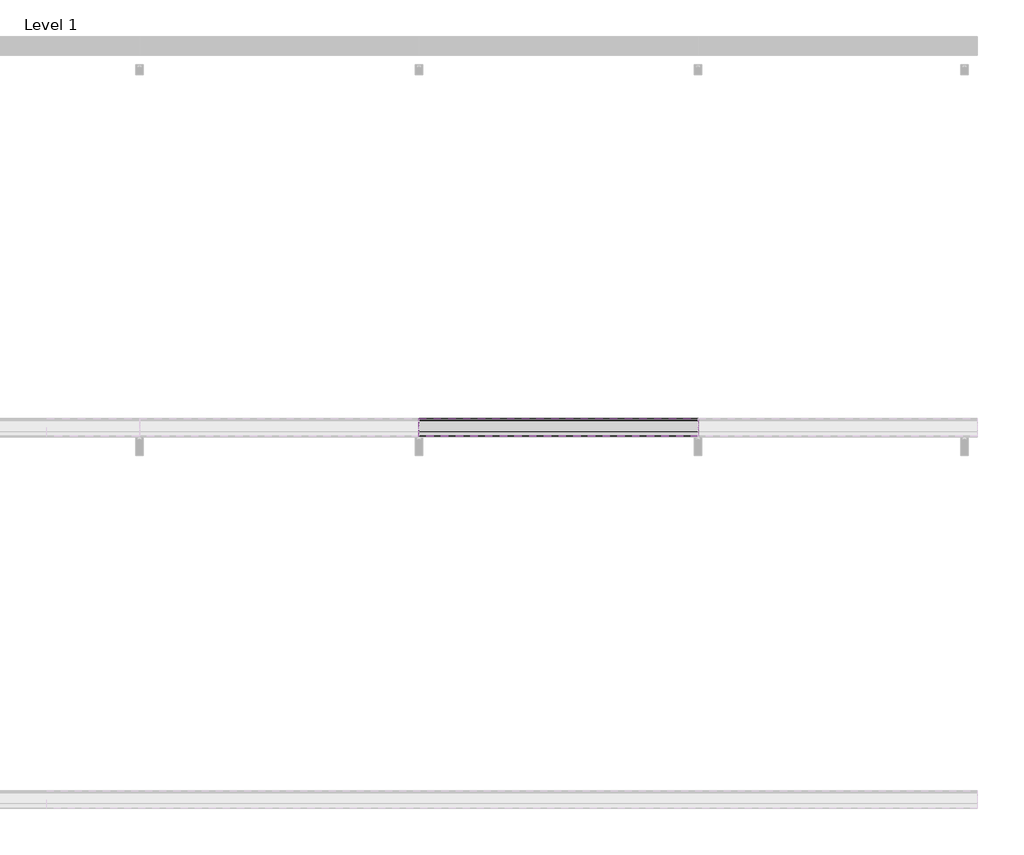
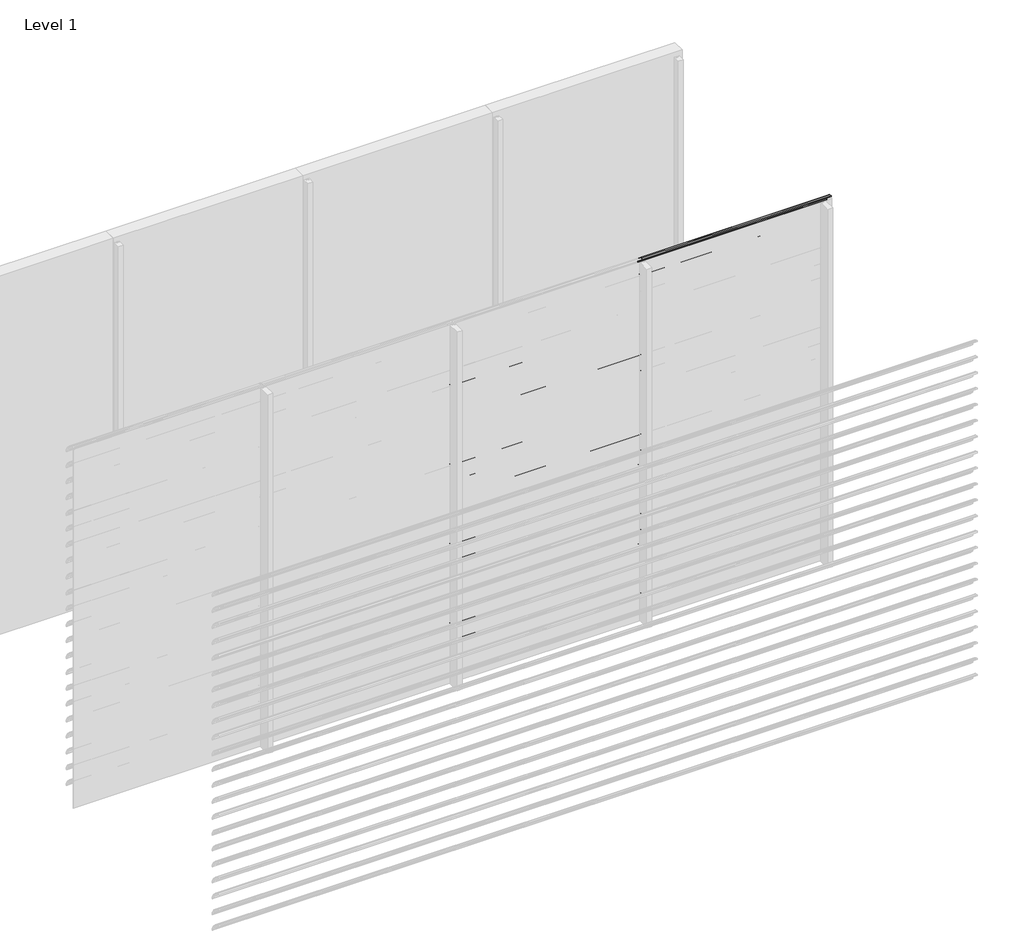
# One storey, part 23 of 57: 20 proxies.
"""IFC4 building model written with IfcOpenShell, lengths in millimetres."""

from ifc_helpers import new_model, si_unit, point, frame, frame_2d, origin, place, context, project, spatial, polyline, circle_curve, trimmed, segment, composite_curve, outline, extrude, element, save

model = new_model("IFC4")

# Units and contexts
model_context = context("Model", 3, world=origin())
ifc_project = project(units=[si_unit("LENGTHUNIT", "METRE", prefix="MILLI")], contexts=[model_context])

# Site, building, storey
site = spatial("IfcSite", under=ifc_project)
building = spatial("IfcBuilding", under=site)
storey = spatial("IfcBuildingStorey", under=building, Name="Level 1", Elevation=0.0)

# Proxies
placement = place(None, origin())
element("IfcBuildingElementProxy", 1, Name="Wall Sweeps", at=placement, inside=storey, context=model_context, shape_type="SweptSolid", body=[
    extrude(outline(composite_curve([segment(trimmed(circle_curve(frame_2d((-35993.7822526, 2484.4913792)), 4.2177474), [point((-35989.6985606, 2485.5462976))], [point((-35993.7822526, 2488.7091266))], False, "CARTESIAN"), True, "CONTINUOUS"), segment(trimmed(circle_curve(frame_2d((-36018.7150834, 2386.2536312)), 105.4456002), [point((-35993.7822526, 2488.7091266))], [point((-35971.7914298, 2480.6832099))], False, "CARTESIAN"), True, "CONTINUOUS"), segment(trimmed(circle_curve(frame_2d((-36061.7199745, 2332.0352476)), 173.7335887), [point((-35971.7914298, 2480.6832099))], [point((-35913.0720121, 2421.9637922))], False, "CARTESIAN"), True, "CONTINUOUS"), segment(trimmed(circle_curve(frame_2d((-36004.9297178, 2370.1860314)), 105.4456002), [point((-35913.0720121, 2421.9637922))], [point((-35903.6249616, 2399.4455765))], False, "CARTESIAN"), True, "CONTINUOUS"), segment(trimmed(circle_curve(frame_2d((-35907.809737, 2398.3307305)), 4.3307305), [point((-35903.6249616, 2399.4455765))], [point((-35909.0769196, 2394.189538))], False, "CARTESIAN"), True, "CONTINUOUS"), segment(polyline([(-35909.0769196, 2394.189538), (-35934.7401984, 2418.9722783)]), True, "CONTINUOUS"), segment(trimmed(circle_curve(frame_2d((-35931.3879574, 2421.2977626)), 4.079877), [point((-35934.7401984, 2418.9722783))], [point((-35930.7310597, 2425.3244091))], False, "CARTESIAN"), True, "CONTINUOUS"), segment(trimmed(circle_curve(frame_2d((-36014.6665585, 2403.2544323)), 86.7885467), [point((-35930.7310597, 2425.3244091))], [point((-35942.3028351, 2451.1683485))], True, "CARTESIAN"), True, "CONTINUOUS"), segment(polyline([(-35942.3028351, 2451.1683485), (-35940.7230099, 2453.9046861)]), True, "CONTINUOUS"), segment(trimmed(circle_curve(frame_2d((-36061.7199745, 2332.0352476)), 171.7335887), [point((-35940.7230099, 2453.9046861))], [point((-35972.7555872, 2478.9289618))], True, "CARTESIAN"), True, "CONTINUOUS"), segment(trimmed(circle_curve(frame_2d((-36018.7150834, 2386.2536312)), 103.4456002), [point((-35972.7555872, 2478.9289618))], [point((-35989.6985606, 2485.5462976))], True, "CARTESIAN"), True, "CONTINUOUS")], self_intersect=False)), frame((3000.0, 0.0, 0.0), z_axis=(1.0, 0.0, 0.0), x_axis=(0.0, 1.0, 0.0)), (0.0, 0.0, 1.0), 1500.0),
])
element("IfcBuildingElementProxy", 2, Name="Wall Sweeps", at=placement, inside=storey, context=model_context, shape_type="SweptSolid", body=[
    extrude(outline(composite_curve([segment(trimmed(circle_curve(frame_2d((-35993.7822526, 2351.4913792)), 4.2177474), [point((-35989.6985606, 2352.5462976))], [point((-35993.7822526, 2355.7091266))], False, "CARTESIAN"), True, "CONTINUOUS"), segment(trimmed(circle_curve(frame_2d((-36018.7150834, 2253.2536312)), 105.4456002), [point((-35993.7822526, 2355.7091266))], [point((-35971.7914298, 2347.6832099))], False, "CARTESIAN"), True, "CONTINUOUS"), segment(trimmed(circle_curve(frame_2d((-36061.7199745, 2199.0352476)), 173.7335887), [point((-35971.7914298, 2347.6832099))], [point((-35913.0720121, 2288.9637922))], False, "CARTESIAN"), True, "CONTINUOUS"), segment(trimmed(circle_curve(frame_2d((-36004.9297178, 2237.1860314)), 105.4456002), [point((-35913.0720121, 2288.9637922))], [point((-35903.6249616, 2266.4455765))], False, "CARTESIAN"), True, "CONTINUOUS"), segment(trimmed(circle_curve(frame_2d((-35907.809737, 2265.3307305)), 4.3307305), [point((-35903.6249616, 2266.4455765))], [point((-35909.0769196, 2261.189538))], False, "CARTESIAN"), True, "CONTINUOUS"), segment(polyline([(-35909.0769196, 2261.189538), (-35934.7401984, 2285.9722783)]), True, "CONTINUOUS"), segment(trimmed(circle_curve(frame_2d((-35931.3879574, 2288.2977626)), 4.079877), [point((-35934.7401984, 2285.9722783))], [point((-35930.7310597, 2292.3244091))], False, "CARTESIAN"), True, "CONTINUOUS"), segment(trimmed(circle_curve(frame_2d((-36014.6665585, 2270.2544323)), 86.7885467), [point((-35930.7310597, 2292.3244091))], [point((-35942.3028351, 2318.1683485))], True, "CARTESIAN"), True, "CONTINUOUS"), segment(polyline([(-35942.3028351, 2318.1683485), (-35940.7230099, 2320.9046861)]), True, "CONTINUOUS"), segment(trimmed(circle_curve(frame_2d((-36061.7199745, 2199.0352476)), 171.7335887), [point((-35940.7230099, 2320.9046861))], [point((-35972.7555872, 2345.9289618))], True, "CARTESIAN"), True, "CONTINUOUS"), segment(trimmed(circle_curve(frame_2d((-36018.7150834, 2253.2536312)), 103.4456002), [point((-35972.7555872, 2345.9289618))], [point((-35989.6985606, 2352.5462976))], True, "CARTESIAN"), True, "CONTINUOUS")], self_intersect=False)), frame((3000.0, 0.0, 0.0), z_axis=(1.0, 0.0, 0.0), x_axis=(0.0, 1.0, 0.0)), (0.0, 0.0, 1.0), 1500.0),
])
element("IfcBuildingElementProxy", 3, Name="Wall Sweeps", at=placement, inside=storey, context=model_context, shape_type="SweptSolid", body=[
    extrude(outline(composite_curve([segment(trimmed(circle_curve(frame_2d((-35993.7822526, 2218.4913792)), 4.2177474), [point((-35989.6985606, 2219.5462976))], [point((-35993.7822526, 2222.7091266))], False, "CARTESIAN"), True, "CONTINUOUS"), segment(trimmed(circle_curve(frame_2d((-36018.7150834, 2120.2536312)), 105.4456002), [point((-35993.7822526, 2222.7091266))], [point((-35971.7914298, 2214.6832099))], False, "CARTESIAN"), True, "CONTINUOUS"), segment(trimmed(circle_curve(frame_2d((-36061.7199745, 2066.0352476)), 173.7335887), [point((-35971.7914298, 2214.6832099))], [point((-35913.0720121, 2155.9637922))], False, "CARTESIAN"), True, "CONTINUOUS"), segment(trimmed(circle_curve(frame_2d((-36004.9297178, 2104.1860314)), 105.4456002), [point((-35913.0720121, 2155.9637922))], [point((-35903.6249616, 2133.4455765))], False, "CARTESIAN"), True, "CONTINUOUS"), segment(trimmed(circle_curve(frame_2d((-35907.809737, 2132.3307305)), 4.3307305), [point((-35903.6249616, 2133.4455765))], [point((-35909.0769196, 2128.189538))], False, "CARTESIAN"), True, "CONTINUOUS"), segment(polyline([(-35909.0769196, 2128.189538), (-35934.7401984, 2152.9722783)]), True, "CONTINUOUS"), segment(trimmed(circle_curve(frame_2d((-35931.3879574, 2155.2977626)), 4.079877), [point((-35934.7401984, 2152.9722783))], [point((-35930.7310597, 2159.3244091))], False, "CARTESIAN"), True, "CONTINUOUS"), segment(trimmed(circle_curve(frame_2d((-36014.6665585, 2137.2544323)), 86.7885467), [point((-35930.7310597, 2159.3244091))], [point((-35942.3028351, 2185.1683485))], True, "CARTESIAN"), True, "CONTINUOUS"), segment(polyline([(-35942.3028351, 2185.1683485), (-35940.7230099, 2187.9046861)]), True, "CONTINUOUS"), segment(trimmed(circle_curve(frame_2d((-36061.7199745, 2066.0352476)), 171.7335887), [point((-35940.7230099, 2187.9046861))], [point((-35972.7555872, 2212.9289618))], True, "CARTESIAN"), True, "CONTINUOUS"), segment(trimmed(circle_curve(frame_2d((-36018.7150834, 2120.2536312)), 103.4456002), [point((-35972.7555872, 2212.9289618))], [point((-35989.6985606, 2219.5462976))], True, "CARTESIAN"), True, "CONTINUOUS")], self_intersect=False)), frame((3000.0, 0.0, 0.0), z_axis=(1.0, 0.0, 0.0), x_axis=(0.0, 1.0, 0.0)), (0.0, 0.0, 1.0), 1500.0),
])
element("IfcBuildingElementProxy", 4, Name="Wall Sweeps", at=placement, inside=storey, context=model_context, shape_type="SweptSolid", body=[
    extrude(outline(composite_curve([segment(trimmed(circle_curve(frame_2d((-35993.7822526, 2085.4913792)), 4.2177474), [point((-35989.6985606, 2086.5462976))], [point((-35993.7822526, 2089.7091266))], False, "CARTESIAN"), True, "CONTINUOUS"), segment(trimmed(circle_curve(frame_2d((-36018.7150834, 1987.2536312)), 105.4456002), [point((-35993.7822526, 2089.7091266))], [point((-35971.7914298, 2081.6832099))], False, "CARTESIAN"), True, "CONTINUOUS"), segment(trimmed(circle_curve(frame_2d((-36061.7199745, 1933.0352476)), 173.7335887), [point((-35971.7914298, 2081.6832099))], [point((-35913.0720121, 2022.9637922))], False, "CARTESIAN"), True, "CONTINUOUS"), segment(trimmed(circle_curve(frame_2d((-36004.9297178, 1971.1860314)), 105.4456002), [point((-35913.0720121, 2022.9637922))], [point((-35903.6249616, 2000.4455765))], False, "CARTESIAN"), True, "CONTINUOUS"), segment(trimmed(circle_curve(frame_2d((-35907.809737, 1999.3307305)), 4.3307305), [point((-35903.6249616, 2000.4455765))], [point((-35909.0769196, 1995.189538))], False, "CARTESIAN"), True, "CONTINUOUS"), segment(polyline([(-35909.0769196, 1995.189538), (-35934.7401984, 2019.9722783)]), True, "CONTINUOUS"), segment(trimmed(circle_curve(frame_2d((-35931.3879574, 2022.2977626)), 4.079877), [point((-35934.7401984, 2019.9722783))], [point((-35930.7310597, 2026.3244091))], False, "CARTESIAN"), True, "CONTINUOUS"), segment(trimmed(circle_curve(frame_2d((-36014.6665585, 2004.2544323)), 86.7885467), [point((-35930.7310597, 2026.3244091))], [point((-35942.3028351, 2052.1683485))], True, "CARTESIAN"), True, "CONTINUOUS"), segment(polyline([(-35942.3028351, 2052.1683485), (-35940.7230099, 2054.9046861)]), True, "CONTINUOUS"), segment(trimmed(circle_curve(frame_2d((-36061.7199745, 1933.0352476)), 171.7335887), [point((-35940.7230099, 2054.9046861))], [point((-35972.7555872, 2079.9289618))], True, "CARTESIAN"), True, "CONTINUOUS"), segment(trimmed(circle_curve(frame_2d((-36018.7150834, 1987.2536312)), 103.4456002), [point((-35972.7555872, 2079.9289618))], [point((-35989.6985606, 2086.5462976))], True, "CARTESIAN"), True, "CONTINUOUS")], self_intersect=False)), frame((3000.0, 0.0, 0.0), z_axis=(1.0, 0.0, 0.0), x_axis=(0.0, 1.0, 0.0)), (0.0, 0.0, 1.0), 1500.0),
])
element("IfcBuildingElementProxy", 5, Name="Wall Sweeps", at=placement, inside=storey, context=model_context, shape_type="SweptSolid", body=[
    extrude(outline(composite_curve([segment(trimmed(circle_curve(frame_2d((-35993.7822526, 1952.4913792)), 4.2177474), [point((-35989.6985606, 1953.5462976))], [point((-35993.7822526, 1956.7091266))], False, "CARTESIAN"), True, "CONTINUOUS"), segment(trimmed(circle_curve(frame_2d((-36018.7150834, 1854.2536312)), 105.4456002), [point((-35993.7822526, 1956.7091266))], [point((-35971.7914298, 1948.6832099))], False, "CARTESIAN"), True, "CONTINUOUS"), segment(trimmed(circle_curve(frame_2d((-36061.7199745, 1800.0352476)), 173.7335887), [point((-35971.7914298, 1948.6832099))], [point((-35913.0720121, 1889.9637922))], False, "CARTESIAN"), True, "CONTINUOUS"), segment(trimmed(circle_curve(frame_2d((-36004.9297178, 1838.1860314)), 105.4456002), [point((-35913.0720121, 1889.9637922))], [point((-35903.6249616, 1867.4455765))], False, "CARTESIAN"), True, "CONTINUOUS"), segment(trimmed(circle_curve(frame_2d((-35907.809737, 1866.3307305)), 4.3307305), [point((-35903.6249616, 1867.4455765))], [point((-35909.0769196, 1862.189538))], False, "CARTESIAN"), True, "CONTINUOUS"), segment(polyline([(-35909.0769196, 1862.189538), (-35934.7401984, 1886.9722783)]), True, "CONTINUOUS"), segment(trimmed(circle_curve(frame_2d((-35931.3879574, 1889.2977626)), 4.079877), [point((-35934.7401984, 1886.9722783))], [point((-35930.7310597, 1893.3244091))], False, "CARTESIAN"), True, "CONTINUOUS"), segment(trimmed(circle_curve(frame_2d((-36014.6665585, 1871.2544323)), 86.7885467), [point((-35930.7310597, 1893.3244091))], [point((-35942.3028351, 1919.1683485))], True, "CARTESIAN"), True, "CONTINUOUS"), segment(polyline([(-35942.3028351, 1919.1683485), (-35940.7230099, 1921.9046861)]), True, "CONTINUOUS"), segment(trimmed(circle_curve(frame_2d((-36061.7199745, 1800.0352476)), 171.7335887), [point((-35940.7230099, 1921.9046861))], [point((-35972.7555872, 1946.9289618))], True, "CARTESIAN"), True, "CONTINUOUS"), segment(trimmed(circle_curve(frame_2d((-36018.7150834, 1854.2536312)), 103.4456002), [point((-35972.7555872, 1946.9289618))], [point((-35989.6985606, 1953.5462976))], True, "CARTESIAN"), True, "CONTINUOUS")], self_intersect=False)), frame((3000.0, 0.0, 0.0), z_axis=(1.0, 0.0, 0.0), x_axis=(0.0, 1.0, 0.0)), (0.0, 0.0, 1.0), 1500.0),
])
element("IfcBuildingElementProxy", 6, Name="Wall Sweeps", at=placement, inside=storey, context=model_context, shape_type="SweptSolid", body=[
    extrude(outline(composite_curve([segment(trimmed(circle_curve(frame_2d((-35993.7822526, 1819.4913792)), 4.2177474), [point((-35989.6985606, 1820.5462976))], [point((-35993.7822526, 1823.7091266))], False, "CARTESIAN"), True, "CONTINUOUS"), segment(trimmed(circle_curve(frame_2d((-36018.7150834, 1721.2536312)), 105.4456002), [point((-35993.7822526, 1823.7091266))], [point((-35971.7914298, 1815.6832099))], False, "CARTESIAN"), True, "CONTINUOUS"), segment(trimmed(circle_curve(frame_2d((-36061.7199745, 1667.0352476)), 173.7335887), [point((-35971.7914298, 1815.6832099))], [point((-35913.0720121, 1756.9637922))], False, "CARTESIAN"), True, "CONTINUOUS"), segment(trimmed(circle_curve(frame_2d((-36004.9297178, 1705.1860314)), 105.4456002), [point((-35913.0720121, 1756.9637922))], [point((-35903.6249616, 1734.4455765))], False, "CARTESIAN"), True, "CONTINUOUS"), segment(trimmed(circle_curve(frame_2d((-35907.809737, 1733.3307305)), 4.3307305), [point((-35903.6249616, 1734.4455765))], [point((-35909.0769196, 1729.189538))], False, "CARTESIAN"), True, "CONTINUOUS"), segment(polyline([(-35909.0769196, 1729.189538), (-35934.7401984, 1753.9722783)]), True, "CONTINUOUS"), segment(trimmed(circle_curve(frame_2d((-35931.3879574, 1756.2977626)), 4.079877), [point((-35934.7401984, 1753.9722783))], [point((-35930.7310597, 1760.3244091))], False, "CARTESIAN"), True, "CONTINUOUS"), segment(trimmed(circle_curve(frame_2d((-36014.6665585, 1738.2544323)), 86.7885467), [point((-35930.7310597, 1760.3244091))], [point((-35942.3028351, 1786.1683485))], True, "CARTESIAN"), True, "CONTINUOUS"), segment(polyline([(-35942.3028351, 1786.1683485), (-35940.7230099, 1788.9046861)]), True, "CONTINUOUS"), segment(trimmed(circle_curve(frame_2d((-36061.7199745, 1667.0352476)), 171.7335887), [point((-35940.7230099, 1788.9046861))], [point((-35972.7555872, 1813.9289618))], True, "CARTESIAN"), True, "CONTINUOUS"), segment(trimmed(circle_curve(frame_2d((-36018.7150834, 1721.2536312)), 103.4456002), [point((-35972.7555872, 1813.9289618))], [point((-35989.6985606, 1820.5462976))], True, "CARTESIAN"), True, "CONTINUOUS")], self_intersect=False)), frame((3000.0, 0.0, 0.0), z_axis=(1.0, 0.0, 0.0), x_axis=(0.0, 1.0, 0.0)), (0.0, 0.0, 1.0), 1500.0),
])
element("IfcBuildingElementProxy", 7, Name="Wall Sweeps", at=placement, inside=storey, context=model_context, shape_type="SweptSolid", body=[
    extrude(outline(composite_curve([segment(trimmed(circle_curve(frame_2d((-35993.7822526, 1686.4913792)), 4.2177474), [point((-35989.6985606, 1687.5462976))], [point((-35993.7822526, 1690.7091266))], False, "CARTESIAN"), True, "CONTINUOUS"), segment(trimmed(circle_curve(frame_2d((-36018.7150834, 1588.2536312)), 105.4456002), [point((-35993.7822526, 1690.7091266))], [point((-35971.7914298, 1682.6832099))], False, "CARTESIAN"), True, "CONTINUOUS"), segment(trimmed(circle_curve(frame_2d((-36061.7199745, 1534.0352476)), 173.7335887), [point((-35971.7914298, 1682.6832099))], [point((-35913.0720121, 1623.9637922))], False, "CARTESIAN"), True, "CONTINUOUS"), segment(trimmed(circle_curve(frame_2d((-36004.9297178, 1572.1860314)), 105.4456002), [point((-35913.0720121, 1623.9637922))], [point((-35903.6249616, 1601.4455765))], False, "CARTESIAN"), True, "CONTINUOUS"), segment(trimmed(circle_curve(frame_2d((-35907.809737, 1600.3307305)), 4.3307305), [point((-35903.6249616, 1601.4455765))], [point((-35909.0769196, 1596.189538))], False, "CARTESIAN"), True, "CONTINUOUS"), segment(polyline([(-35909.0769196, 1596.189538), (-35934.7401984, 1620.9722783)]), True, "CONTINUOUS"), segment(trimmed(circle_curve(frame_2d((-35931.3879574, 1623.2977626)), 4.079877), [point((-35934.7401984, 1620.9722783))], [point((-35930.7310597, 1627.3244091))], False, "CARTESIAN"), True, "CONTINUOUS"), segment(trimmed(circle_curve(frame_2d((-36014.6665585, 1605.2544323)), 86.7885467), [point((-35930.7310597, 1627.3244091))], [point((-35942.3028351, 1653.1683485))], True, "CARTESIAN"), True, "CONTINUOUS"), segment(polyline([(-35942.3028351, 1653.1683485), (-35940.7230099, 1655.9046861)]), True, "CONTINUOUS"), segment(trimmed(circle_curve(frame_2d((-36061.7199745, 1534.0352476)), 171.7335887), [point((-35940.7230099, 1655.9046861))], [point((-35972.7555872, 1680.9289618))], True, "CARTESIAN"), True, "CONTINUOUS"), segment(trimmed(circle_curve(frame_2d((-36018.7150834, 1588.2536312)), 103.4456002), [point((-35972.7555872, 1680.9289618))], [point((-35989.6985606, 1687.5462976))], True, "CARTESIAN"), True, "CONTINUOUS")], self_intersect=False)), frame((3000.0, 0.0, 0.0), z_axis=(1.0, 0.0, 0.0), x_axis=(0.0, 1.0, 0.0)), (0.0, 0.0, 1.0), 1500.0),
])
element("IfcBuildingElementProxy", 8, Name="Wall Sweeps", at=placement, inside=storey, context=model_context, shape_type="SweptSolid", body=[
    extrude(outline(composite_curve([segment(trimmed(circle_curve(frame_2d((-35993.7822526, 1553.4913792)), 4.2177474), [point((-35989.6985606, 1554.5462976))], [point((-35993.7822526, 1557.7091266))], False, "CARTESIAN"), True, "CONTINUOUS"), segment(trimmed(circle_curve(frame_2d((-36018.7150834, 1455.2536312)), 105.4456002), [point((-35993.7822526, 1557.7091266))], [point((-35971.7914298, 1549.6832099))], False, "CARTESIAN"), True, "CONTINUOUS"), segment(trimmed(circle_curve(frame_2d((-36061.7199745, 1401.0352476)), 173.7335887), [point((-35971.7914298, 1549.6832099))], [point((-35913.0720121, 1490.9637922))], False, "CARTESIAN"), True, "CONTINUOUS"), segment(trimmed(circle_curve(frame_2d((-36004.9297178, 1439.1860314)), 105.4456002), [point((-35913.0720121, 1490.9637922))], [point((-35903.6249616, 1468.4455765))], False, "CARTESIAN"), True, "CONTINUOUS"), segment(trimmed(circle_curve(frame_2d((-35907.809737, 1467.3307305)), 4.3307305), [point((-35903.6249616, 1468.4455765))], [point((-35909.0769196, 1463.189538))], False, "CARTESIAN"), True, "CONTINUOUS"), segment(polyline([(-35909.0769196, 1463.189538), (-35934.7401984, 1487.9722783)]), True, "CONTINUOUS"), segment(trimmed(circle_curve(frame_2d((-35931.3879574, 1490.2977626)), 4.079877), [point((-35934.7401984, 1487.9722783))], [point((-35930.7310597, 1494.3244091))], False, "CARTESIAN"), True, "CONTINUOUS"), segment(trimmed(circle_curve(frame_2d((-36014.6665585, 1472.2544323)), 86.7885467), [point((-35930.7310597, 1494.3244091))], [point((-35942.3028351, 1520.1683485))], True, "CARTESIAN"), True, "CONTINUOUS"), segment(polyline([(-35942.3028351, 1520.1683485), (-35940.7230099, 1522.9046861)]), True, "CONTINUOUS"), segment(trimmed(circle_curve(frame_2d((-36061.7199745, 1401.0352476)), 171.7335887), [point((-35940.7230099, 1522.9046861))], [point((-35972.7555872, 1547.9289618))], True, "CARTESIAN"), True, "CONTINUOUS"), segment(trimmed(circle_curve(frame_2d((-36018.7150834, 1455.2536312)), 103.4456002), [point((-35972.7555872, 1547.9289618))], [point((-35989.6985606, 1554.5462976))], True, "CARTESIAN"), True, "CONTINUOUS")], self_intersect=False)), frame((3000.0, 0.0, 0.0), z_axis=(1.0, 0.0, 0.0), x_axis=(0.0, 1.0, 0.0)), (0.0, 0.0, 1.0), 1500.0),
])
element("IfcBuildingElementProxy", 9, Name="Wall Sweeps", at=placement, inside=storey, context=model_context, shape_type="SweptSolid", body=[
    extrude(outline(composite_curve([segment(trimmed(circle_curve(frame_2d((-35993.7822526, 1420.4913792)), 4.2177474), [point((-35989.6985606, 1421.5462976))], [point((-35993.7822526, 1424.7091266))], False, "CARTESIAN"), True, "CONTINUOUS"), segment(trimmed(circle_curve(frame_2d((-36018.7150834, 1322.2536312)), 105.4456002), [point((-35993.7822526, 1424.7091266))], [point((-35971.7914298, 1416.6832099))], False, "CARTESIAN"), True, "CONTINUOUS"), segment(trimmed(circle_curve(frame_2d((-36061.7199745, 1268.0352476)), 173.7335887), [point((-35971.7914298, 1416.6832099))], [point((-35913.0720121, 1357.9637922))], False, "CARTESIAN"), True, "CONTINUOUS"), segment(trimmed(circle_curve(frame_2d((-36004.9297178, 1306.1860314)), 105.4456002), [point((-35913.0720121, 1357.9637922))], [point((-35903.6249616, 1335.4455765))], False, "CARTESIAN"), True, "CONTINUOUS"), segment(trimmed(circle_curve(frame_2d((-35907.809737, 1334.3307305)), 4.3307305), [point((-35903.6249616, 1335.4455765))], [point((-35909.0769196, 1330.189538))], False, "CARTESIAN"), True, "CONTINUOUS"), segment(polyline([(-35909.0769196, 1330.189538), (-35934.7401984, 1354.9722783)]), True, "CONTINUOUS"), segment(trimmed(circle_curve(frame_2d((-35931.3879574, 1357.2977626)), 4.079877), [point((-35934.7401984, 1354.9722783))], [point((-35930.7310597, 1361.3244091))], False, "CARTESIAN"), True, "CONTINUOUS"), segment(trimmed(circle_curve(frame_2d((-36014.6665585, 1339.2544323)), 86.7885467), [point((-35930.7310597, 1361.3244091))], [point((-35942.3028351, 1387.1683485))], True, "CARTESIAN"), True, "CONTINUOUS"), segment(polyline([(-35942.3028351, 1387.1683485), (-35940.7230099, 1389.9046861)]), True, "CONTINUOUS"), segment(trimmed(circle_curve(frame_2d((-36061.7199745, 1268.0352476)), 171.7335887), [point((-35940.7230099, 1389.9046861))], [point((-35972.7555872, 1414.9289618))], True, "CARTESIAN"), True, "CONTINUOUS"), segment(trimmed(circle_curve(frame_2d((-36018.7150834, 1322.2536312)), 103.4456002), [point((-35972.7555872, 1414.9289618))], [point((-35989.6985606, 1421.5462976))], True, "CARTESIAN"), True, "CONTINUOUS")], self_intersect=False)), frame((3000.0, 0.0, 0.0), z_axis=(1.0, 0.0, 0.0), x_axis=(0.0, 1.0, 0.0)), (0.0, 0.0, 1.0), 1500.0),
])
element("IfcBuildingElementProxy", 10, Name="Wall Sweeps", at=placement, inside=storey, context=model_context, shape_type="SweptSolid", body=[
    extrude(outline(composite_curve([segment(trimmed(circle_curve(frame_2d((-35993.7822526, 1287.4913792)), 4.2177474), [point((-35989.6985606, 1288.5462976))], [point((-35993.7822526, 1291.7091266))], False, "CARTESIAN"), True, "CONTINUOUS"), segment(trimmed(circle_curve(frame_2d((-36018.7150834, 1189.2536312)), 105.4456002), [point((-35993.7822526, 1291.7091266))], [point((-35971.7914298, 1283.6832099))], False, "CARTESIAN"), True, "CONTINUOUS"), segment(trimmed(circle_curve(frame_2d((-36061.7199745, 1135.0352476)), 173.7335887), [point((-35971.7914298, 1283.6832099))], [point((-35913.0720121, 1224.9637922))], False, "CARTESIAN"), True, "CONTINUOUS"), segment(trimmed(circle_curve(frame_2d((-36004.9297178, 1173.1860314)), 105.4456002), [point((-35913.0720121, 1224.9637922))], [point((-35903.6249616, 1202.4455765))], False, "CARTESIAN"), True, "CONTINUOUS"), segment(trimmed(circle_curve(frame_2d((-35907.809737, 1201.3307305)), 4.3307305), [point((-35903.6249616, 1202.4455765))], [point((-35909.0769196, 1197.189538))], False, "CARTESIAN"), True, "CONTINUOUS"), segment(polyline([(-35909.0769196, 1197.189538), (-35934.7401984, 1221.9722783)]), True, "CONTINUOUS"), segment(trimmed(circle_curve(frame_2d((-35931.3879574, 1224.2977626)), 4.079877), [point((-35934.7401984, 1221.9722783))], [point((-35930.7310597, 1228.3244091))], False, "CARTESIAN"), True, "CONTINUOUS"), segment(trimmed(circle_curve(frame_2d((-36014.6665585, 1206.2544323)), 86.7885467), [point((-35930.7310597, 1228.3244091))], [point((-35942.3028351, 1254.1683485))], True, "CARTESIAN"), True, "CONTINUOUS"), segment(polyline([(-35942.3028351, 1254.1683485), (-35940.7230099, 1256.9046861)]), True, "CONTINUOUS"), segment(trimmed(circle_curve(frame_2d((-36061.7199745, 1135.0352476)), 171.7335887), [point((-35940.7230099, 1256.9046861))], [point((-35972.7555872, 1281.9289618))], True, "CARTESIAN"), True, "CONTINUOUS"), segment(trimmed(circle_curve(frame_2d((-36018.7150834, 1189.2536312)), 103.4456002), [point((-35972.7555872, 1281.9289618))], [point((-35989.6985606, 1288.5462976))], True, "CARTESIAN"), True, "CONTINUOUS")], self_intersect=False)), frame((3000.0, 0.0, 0.0), z_axis=(1.0, 0.0, 0.0), x_axis=(0.0, 1.0, 0.0)), (0.0, 0.0, 1.0), 1500.0),
])
element("IfcBuildingElementProxy", 11, Name="Wall Sweeps", at=placement, inside=storey, context=model_context, shape_type="SweptSolid", body=[
    extrude(outline(composite_curve([segment(trimmed(circle_curve(frame_2d((-35993.7822526, 1154.4913792)), 4.2177474), [point((-35989.6985606, 1155.5462976))], [point((-35993.7822526, 1158.7091266))], False, "CARTESIAN"), True, "CONTINUOUS"), segment(trimmed(circle_curve(frame_2d((-36018.7150834, 1056.2536312)), 105.4456002), [point((-35993.7822526, 1158.7091266))], [point((-35971.7914298, 1150.6832099))], False, "CARTESIAN"), True, "CONTINUOUS"), segment(trimmed(circle_curve(frame_2d((-36061.7199745, 1002.0352476)), 173.7335887), [point((-35971.7914298, 1150.6832099))], [point((-35913.0720121, 1091.9637922))], False, "CARTESIAN"), True, "CONTINUOUS"), segment(trimmed(circle_curve(frame_2d((-36004.9297178, 1040.1860314)), 105.4456002), [point((-35913.0720121, 1091.9637922))], [point((-35903.6249616, 1069.4455765))], False, "CARTESIAN"), True, "CONTINUOUS"), segment(trimmed(circle_curve(frame_2d((-35907.809737, 1068.3307305)), 4.3307305), [point((-35903.6249616, 1069.4455765))], [point((-35909.0769196, 1064.189538))], False, "CARTESIAN"), True, "CONTINUOUS"), segment(polyline([(-35909.0769196, 1064.189538), (-35934.7401984, 1088.9722783)]), True, "CONTINUOUS"), segment(trimmed(circle_curve(frame_2d((-35931.3879574, 1091.2977626)), 4.079877), [point((-35934.7401984, 1088.9722783))], [point((-35930.7310597, 1095.3244091))], False, "CARTESIAN"), True, "CONTINUOUS"), segment(trimmed(circle_curve(frame_2d((-36014.6665585, 1073.2544323)), 86.7885467), [point((-35930.7310597, 1095.3244091))], [point((-35942.3028351, 1121.1683485))], True, "CARTESIAN"), True, "CONTINUOUS"), segment(polyline([(-35942.3028351, 1121.1683485), (-35940.7230099, 1123.9046861)]), True, "CONTINUOUS"), segment(trimmed(circle_curve(frame_2d((-36061.7199745, 1002.0352476)), 171.7335887), [point((-35940.7230099, 1123.9046861))], [point((-35972.7555872, 1148.9289618))], True, "CARTESIAN"), True, "CONTINUOUS"), segment(trimmed(circle_curve(frame_2d((-36018.7150834, 1056.2536312)), 103.4456002), [point((-35972.7555872, 1148.9289618))], [point((-35989.6985606, 1155.5462976))], True, "CARTESIAN"), True, "CONTINUOUS")], self_intersect=False)), frame((3000.0, 0.0, 0.0), z_axis=(1.0, 0.0, 0.0), x_axis=(0.0, 1.0, 0.0)), (0.0, 0.0, 1.0), 1500.0),
])
element("IfcBuildingElementProxy", 12, Name="Wall Sweeps", at=placement, inside=storey, context=model_context, shape_type="SweptSolid", body=[
    extrude(outline(composite_curve([segment(trimmed(circle_curve(frame_2d((-35993.7822526, 1021.4913792)), 4.2177474), [point((-35989.6985606, 1022.5462976))], [point((-35993.7822526, 1025.7091266))], False, "CARTESIAN"), True, "CONTINUOUS"), segment(trimmed(circle_curve(frame_2d((-36018.7150834, 923.2536312)), 105.4456002), [point((-35993.7822526, 1025.7091266))], [point((-35971.7914298, 1017.6832099))], False, "CARTESIAN"), True, "CONTINUOUS"), segment(trimmed(circle_curve(frame_2d((-36061.7199745, 869.0352476)), 173.7335887), [point((-35971.7914298, 1017.6832099))], [point((-35913.0720121, 958.9637922))], False, "CARTESIAN"), True, "CONTINUOUS"), segment(trimmed(circle_curve(frame_2d((-36004.9297178, 907.1860314)), 105.4456002), [point((-35913.0720121, 958.9637922))], [point((-35903.6249616, 936.4455765))], False, "CARTESIAN"), True, "CONTINUOUS"), segment(trimmed(circle_curve(frame_2d((-35907.809737, 935.3307305)), 4.3307305), [point((-35903.6249616, 936.4455765))], [point((-35909.0769196, 931.189538))], False, "CARTESIAN"), True, "CONTINUOUS"), segment(polyline([(-35909.0769196, 931.189538), (-35934.7401984, 955.9722783)]), True, "CONTINUOUS"), segment(trimmed(circle_curve(frame_2d((-35931.3879574, 958.2977626)), 4.079877), [point((-35934.7401984, 955.9722783))], [point((-35930.7310597, 962.3244091))], False, "CARTESIAN"), True, "CONTINUOUS"), segment(trimmed(circle_curve(frame_2d((-36014.6665585, 940.2544323)), 86.7885467), [point((-35930.7310597, 962.3244091))], [point((-35942.3028351, 988.1683485))], True, "CARTESIAN"), True, "CONTINUOUS"), segment(polyline([(-35942.3028351, 988.1683485), (-35940.7230099, 990.9046861)]), True, "CONTINUOUS"), segment(trimmed(circle_curve(frame_2d((-36061.7199745, 869.0352476)), 171.7335887), [point((-35940.7230099, 990.9046861))], [point((-35972.7555872, 1015.9289618))], True, "CARTESIAN"), True, "CONTINUOUS"), segment(trimmed(circle_curve(frame_2d((-36018.7150834, 923.2536312)), 103.4456002), [point((-35972.7555872, 1015.9289618))], [point((-35989.6985606, 1022.5462976))], True, "CARTESIAN"), True, "CONTINUOUS")], self_intersect=False)), frame((3000.0, 0.0, 0.0), z_axis=(1.0, 0.0, 0.0), x_axis=(0.0, 1.0, 0.0)), (0.0, 0.0, 1.0), 1500.0),
])
element("IfcBuildingElementProxy", 13, Name="Wall Sweeps", at=placement, inside=storey, context=model_context, shape_type="SweptSolid", body=[
    extrude(outline(composite_curve([segment(trimmed(circle_curve(frame_2d((-35993.7822526, 888.4913792)), 4.2177474), [point((-35989.6985606, 889.5462976))], [point((-35993.7822526, 892.7091266))], False, "CARTESIAN"), True, "CONTINUOUS"), segment(trimmed(circle_curve(frame_2d((-36018.7150834, 790.2536312)), 105.4456002), [point((-35993.7822526, 892.7091266))], [point((-35971.7914298, 884.6832099))], False, "CARTESIAN"), True, "CONTINUOUS"), segment(trimmed(circle_curve(frame_2d((-36061.7199745, 736.0352476)), 173.7335887), [point((-35971.7914298, 884.6832099))], [point((-35913.0720121, 825.9637922))], False, "CARTESIAN"), True, "CONTINUOUS"), segment(trimmed(circle_curve(frame_2d((-36004.9297178, 774.1860314)), 105.4456002), [point((-35913.0720121, 825.9637922))], [point((-35903.6249616, 803.4455765))], False, "CARTESIAN"), True, "CONTINUOUS"), segment(trimmed(circle_curve(frame_2d((-35907.809737, 802.3307305)), 4.3307305), [point((-35903.6249616, 803.4455765))], [point((-35909.0769196, 798.189538))], False, "CARTESIAN"), True, "CONTINUOUS"), segment(polyline([(-35909.0769196, 798.189538), (-35934.7401984, 822.9722783)]), True, "CONTINUOUS"), segment(trimmed(circle_curve(frame_2d((-35931.3879574, 825.2977626)), 4.079877), [point((-35934.7401984, 822.9722783))], [point((-35930.7310597, 829.3244091))], False, "CARTESIAN"), True, "CONTINUOUS"), segment(trimmed(circle_curve(frame_2d((-36014.6665585, 807.2544323)), 86.7885467), [point((-35930.7310597, 829.3244091))], [point((-35942.3028351, 855.1683485))], True, "CARTESIAN"), True, "CONTINUOUS"), segment(polyline([(-35942.3028351, 855.1683485), (-35940.7230099, 857.9046861)]), True, "CONTINUOUS"), segment(trimmed(circle_curve(frame_2d((-36061.7199745, 736.0352476)), 171.7335887), [point((-35940.7230099, 857.9046861))], [point((-35972.7555872, 882.9289618))], True, "CARTESIAN"), True, "CONTINUOUS"), segment(trimmed(circle_curve(frame_2d((-36018.7150834, 790.2536312)), 103.4456002), [point((-35972.7555872, 882.9289618))], [point((-35989.6985606, 889.5462976))], True, "CARTESIAN"), True, "CONTINUOUS")], self_intersect=False)), frame((3000.0, 0.0, 0.0), z_axis=(1.0, 0.0, 0.0), x_axis=(0.0, 1.0, 0.0)), (0.0, 0.0, 1.0), 1500.0),
])
element("IfcBuildingElementProxy", 14, Name="Wall Sweeps", at=placement, inside=storey, context=model_context, shape_type="SweptSolid", body=[
    extrude(outline(composite_curve([segment(trimmed(circle_curve(frame_2d((-35993.7822526, 755.4913792)), 4.2177474), [point((-35989.6985606, 756.5462976))], [point((-35993.7822526, 759.7091266))], False, "CARTESIAN"), True, "CONTINUOUS"), segment(trimmed(circle_curve(frame_2d((-36018.7150834, 657.2536312)), 105.4456002), [point((-35993.7822526, 759.7091266))], [point((-35971.7914298, 751.6832099))], False, "CARTESIAN"), True, "CONTINUOUS"), segment(trimmed(circle_curve(frame_2d((-36061.7199745, 603.0352476)), 173.7335887), [point((-35971.7914298, 751.6832099))], [point((-35913.0720121, 692.9637922))], False, "CARTESIAN"), True, "CONTINUOUS"), segment(trimmed(circle_curve(frame_2d((-36004.9297178, 641.1860314)), 105.4456002), [point((-35913.0720121, 692.9637922))], [point((-35903.6249616, 670.4455765))], False, "CARTESIAN"), True, "CONTINUOUS"), segment(trimmed(circle_curve(frame_2d((-35907.809737, 669.3307305)), 4.3307305), [point((-35903.6249616, 670.4455765))], [point((-35909.0769196, 665.189538))], False, "CARTESIAN"), True, "CONTINUOUS"), segment(polyline([(-35909.0769196, 665.189538), (-35934.7401984, 689.9722783)]), True, "CONTINUOUS"), segment(trimmed(circle_curve(frame_2d((-35931.3879574, 692.2977626)), 4.079877), [point((-35934.7401984, 689.9722783))], [point((-35930.7310597, 696.3244091))], False, "CARTESIAN"), True, "CONTINUOUS"), segment(trimmed(circle_curve(frame_2d((-36014.6665585, 674.2544323)), 86.7885467), [point((-35930.7310597, 696.3244091))], [point((-35942.3028351, 722.1683485))], True, "CARTESIAN"), True, "CONTINUOUS"), segment(polyline([(-35942.3028351, 722.1683485), (-35940.7230099, 724.9046861)]), True, "CONTINUOUS"), segment(trimmed(circle_curve(frame_2d((-36061.7199745, 603.0352476)), 171.7335887), [point((-35940.7230099, 724.9046861))], [point((-35972.7555872, 749.9289618))], True, "CARTESIAN"), True, "CONTINUOUS"), segment(trimmed(circle_curve(frame_2d((-36018.7150834, 657.2536312)), 103.4456002), [point((-35972.7555872, 749.9289618))], [point((-35989.6985606, 756.5462976))], True, "CARTESIAN"), True, "CONTINUOUS")], self_intersect=False)), frame((3000.0, 0.0, 0.0), z_axis=(1.0, 0.0, 0.0), x_axis=(0.0, 1.0, 0.0)), (0.0, 0.0, 1.0), 1500.0),
])
element("IfcBuildingElementProxy", 15, Name="Wall Sweeps", at=placement, inside=storey, context=model_context, shape_type="SweptSolid", body=[
    extrude(outline(composite_curve([segment(trimmed(circle_curve(frame_2d((-35993.7822526, 622.4913792)), 4.2177474), [point((-35989.6985606, 623.5462976))], [point((-35993.7822526, 626.7091266))], False, "CARTESIAN"), True, "CONTINUOUS"), segment(trimmed(circle_curve(frame_2d((-36018.7150834, 524.2536312)), 105.4456002), [point((-35993.7822526, 626.7091266))], [point((-35971.7914298, 618.6832099))], False, "CARTESIAN"), True, "CONTINUOUS"), segment(trimmed(circle_curve(frame_2d((-36061.7199745, 470.0352476)), 173.7335887), [point((-35971.7914298, 618.6832099))], [point((-35913.0720121, 559.9637922))], False, "CARTESIAN"), True, "CONTINUOUS"), segment(trimmed(circle_curve(frame_2d((-36004.9297178, 508.1860314)), 105.4456002), [point((-35913.0720121, 559.9637922))], [point((-35903.6249616, 537.4455765))], False, "CARTESIAN"), True, "CONTINUOUS"), segment(trimmed(circle_curve(frame_2d((-35907.809737, 536.3307305)), 4.3307305), [point((-35903.6249616, 537.4455765))], [point((-35909.0769196, 532.189538))], False, "CARTESIAN"), True, "CONTINUOUS"), segment(polyline([(-35909.0769196, 532.189538), (-35934.7401984, 556.9722783)]), True, "CONTINUOUS"), segment(trimmed(circle_curve(frame_2d((-35931.3879574, 559.2977626)), 4.079877), [point((-35934.7401984, 556.9722783))], [point((-35930.7310597, 563.3244091))], False, "CARTESIAN"), True, "CONTINUOUS"), segment(trimmed(circle_curve(frame_2d((-36014.6665585, 541.2544323)), 86.7885467), [point((-35930.7310597, 563.3244091))], [point((-35942.3028351, 589.1683485))], True, "CARTESIAN"), True, "CONTINUOUS"), segment(polyline([(-35942.3028351, 589.1683485), (-35940.7230099, 591.9046861)]), True, "CONTINUOUS"), segment(trimmed(circle_curve(frame_2d((-36061.7199745, 470.0352476)), 171.7335887), [point((-35940.7230099, 591.9046861))], [point((-35972.7555872, 616.9289618))], True, "CARTESIAN"), True, "CONTINUOUS"), segment(trimmed(circle_curve(frame_2d((-36018.7150834, 524.2536312)), 103.4456002), [point((-35972.7555872, 616.9289618))], [point((-35989.6985606, 623.5462976))], True, "CARTESIAN"), True, "CONTINUOUS")], self_intersect=False)), frame((3000.0, 0.0, 0.0), z_axis=(1.0, 0.0, 0.0), x_axis=(0.0, 1.0, 0.0)), (0.0, 0.0, 1.0), 1500.0),
])
element("IfcBuildingElementProxy", 16, Name="Wall Sweeps", at=placement, inside=storey, context=model_context, shape_type="SweptSolid", body=[
    extrude(outline(composite_curve([segment(trimmed(circle_curve(frame_2d((-35993.7822526, 489.4913792)), 4.2177474), [point((-35989.6985606, 490.5462976))], [point((-35993.7822526, 493.7091266))], False, "CARTESIAN"), True, "CONTINUOUS"), segment(trimmed(circle_curve(frame_2d((-36018.7150834, 391.2536312)), 105.4456002), [point((-35993.7822526, 493.7091266))], [point((-35971.7914298, 485.6832099))], False, "CARTESIAN"), True, "CONTINUOUS"), segment(trimmed(circle_curve(frame_2d((-36061.7199745, 337.0352476)), 173.7335887), [point((-35971.7914298, 485.6832099))], [point((-35913.0720121, 426.9637922))], False, "CARTESIAN"), True, "CONTINUOUS"), segment(trimmed(circle_curve(frame_2d((-36004.9297178, 375.1860314)), 105.4456002), [point((-35913.0720121, 426.9637922))], [point((-35903.6249616, 404.4455765))], False, "CARTESIAN"), True, "CONTINUOUS"), segment(trimmed(circle_curve(frame_2d((-35907.809737, 403.3307305)), 4.3307305), [point((-35903.6249616, 404.4455765))], [point((-35909.0769196, 399.189538))], False, "CARTESIAN"), True, "CONTINUOUS"), segment(polyline([(-35909.0769196, 399.189538), (-35934.7401984, 423.9722783)]), True, "CONTINUOUS"), segment(trimmed(circle_curve(frame_2d((-35931.3879574, 426.2977626)), 4.079877), [point((-35934.7401984, 423.9722783))], [point((-35930.7310597, 430.3244091))], False, "CARTESIAN"), True, "CONTINUOUS"), segment(trimmed(circle_curve(frame_2d((-36014.6665585, 408.2544323)), 86.7885467), [point((-35930.7310597, 430.3244091))], [point((-35942.3028351, 456.1683485))], True, "CARTESIAN"), True, "CONTINUOUS"), segment(polyline([(-35942.3028351, 456.1683485), (-35940.7230099, 458.9046861)]), True, "CONTINUOUS"), segment(trimmed(circle_curve(frame_2d((-36061.7199745, 337.0352476)), 171.7335887), [point((-35940.7230099, 458.9046861))], [point((-35972.7555872, 483.9289618))], True, "CARTESIAN"), True, "CONTINUOUS"), segment(trimmed(circle_curve(frame_2d((-36018.7150834, 391.2536312)), 103.4456002), [point((-35972.7555872, 483.9289618))], [point((-35989.6985606, 490.5462976))], True, "CARTESIAN"), True, "CONTINUOUS")], self_intersect=False)), frame((3000.0, 0.0, 0.0), z_axis=(1.0, 0.0, 0.0), x_axis=(0.0, 1.0, 0.0)), (0.0, 0.0, 1.0), 1500.0),
])
element("IfcBuildingElementProxy", 17, Name="Wall Sweeps", at=placement, inside=storey, context=model_context, shape_type="SweptSolid", body=[
    extrude(outline(composite_curve([segment(trimmed(circle_curve(frame_2d((-35993.7822526, 356.4913792)), 4.2177474), [point((-35989.6985606, 357.5462976))], [point((-35993.7822526, 360.7091266))], False, "CARTESIAN"), True, "CONTINUOUS"), segment(trimmed(circle_curve(frame_2d((-36018.7150834, 258.2536312)), 105.4456002), [point((-35993.7822526, 360.7091266))], [point((-35971.7914298, 352.6832099))], False, "CARTESIAN"), True, "CONTINUOUS"), segment(trimmed(circle_curve(frame_2d((-36061.7199745, 204.0352476)), 173.7335887), [point((-35971.7914298, 352.6832099))], [point((-35913.0720121, 293.9637922))], False, "CARTESIAN"), True, "CONTINUOUS"), segment(trimmed(circle_curve(frame_2d((-36004.9297178, 242.1860314)), 105.4456002), [point((-35913.0720121, 293.9637922))], [point((-35903.6249616, 271.4455765))], False, "CARTESIAN"), True, "CONTINUOUS"), segment(trimmed(circle_curve(frame_2d((-35907.809737, 270.3307305)), 4.3307305), [point((-35903.6249616, 271.4455765))], [point((-35909.0769196, 266.189538))], False, "CARTESIAN"), True, "CONTINUOUS"), segment(polyline([(-35909.0769196, 266.189538), (-35934.7401984, 290.9722783)]), True, "CONTINUOUS"), segment(trimmed(circle_curve(frame_2d((-35931.3879574, 293.2977626)), 4.079877), [point((-35934.7401984, 290.9722783))], [point((-35930.7310597, 297.3244091))], False, "CARTESIAN"), True, "CONTINUOUS"), segment(trimmed(circle_curve(frame_2d((-36014.6665585, 275.2544323)), 86.7885467), [point((-35930.7310597, 297.3244091))], [point((-35942.3028351, 323.1683485))], True, "CARTESIAN"), True, "CONTINUOUS"), segment(polyline([(-35942.3028351, 323.1683485), (-35940.7230099, 325.9046861)]), True, "CONTINUOUS"), segment(trimmed(circle_curve(frame_2d((-36061.7199745, 204.0352476)), 171.7335887), [point((-35940.7230099, 325.9046861))], [point((-35972.7555872, 350.9289618))], True, "CARTESIAN"), True, "CONTINUOUS"), segment(trimmed(circle_curve(frame_2d((-36018.7150834, 258.2536312)), 103.4456002), [point((-35972.7555872, 350.9289618))], [point((-35989.6985606, 357.5462976))], True, "CARTESIAN"), True, "CONTINUOUS")], self_intersect=False)), frame((3000.0, 0.0, 0.0), z_axis=(1.0, 0.0, 0.0), x_axis=(0.0, 1.0, 0.0)), (0.0, 0.0, 1.0), 1500.0),
])
element("IfcBuildingElementProxy", 18, Name="Wall Sweeps", at=placement, inside=storey, context=model_context, shape_type="SweptSolid", body=[
    extrude(outline(composite_curve([segment(trimmed(circle_curve(frame_2d((-35993.7822526, 223.4913792)), 4.2177474), [point((-35989.6985606, 224.5462976))], [point((-35993.7822526, 227.7091266))], False, "CARTESIAN"), True, "CONTINUOUS"), segment(trimmed(circle_curve(frame_2d((-36018.7150834, 125.2536312)), 105.4456002), [point((-35993.7822526, 227.7091266))], [point((-35971.7914298, 219.6832099))], False, "CARTESIAN"), True, "CONTINUOUS"), segment(trimmed(circle_curve(frame_2d((-36061.7199745, 71.0352476)), 173.7335887), [point((-35971.7914298, 219.6832099))], [point((-35913.0720121, 160.9637922))], False, "CARTESIAN"), True, "CONTINUOUS"), segment(trimmed(circle_curve(frame_2d((-36004.9297178, 109.1860314)), 105.4456002), [point((-35913.0720121, 160.9637922))], [point((-35903.6249616, 138.4455765))], False, "CARTESIAN"), True, "CONTINUOUS"), segment(trimmed(circle_curve(frame_2d((-35907.809737, 137.3307305)), 4.3307305), [point((-35903.6249616, 138.4455765))], [point((-35909.0769196, 133.189538))], False, "CARTESIAN"), True, "CONTINUOUS"), segment(polyline([(-35909.0769196, 133.189538), (-35934.7401984, 157.9722783)]), True, "CONTINUOUS"), segment(trimmed(circle_curve(frame_2d((-35931.3879574, 160.2977626)), 4.079877), [point((-35934.7401984, 157.9722783))], [point((-35930.7310597, 164.3244091))], False, "CARTESIAN"), True, "CONTINUOUS"), segment(trimmed(circle_curve(frame_2d((-36014.6665585, 142.2544323)), 86.7885467), [point((-35930.7310597, 164.3244091))], [point((-35942.3028351, 190.1683485))], True, "CARTESIAN"), True, "CONTINUOUS"), segment(polyline([(-35942.3028351, 190.1683485), (-35940.7230099, 192.9046861)]), True, "CONTINUOUS"), segment(trimmed(circle_curve(frame_2d((-36061.7199745, 71.0352476)), 171.7335887), [point((-35940.7230099, 192.9046861))], [point((-35972.7555872, 217.9289618))], True, "CARTESIAN"), True, "CONTINUOUS"), segment(trimmed(circle_curve(frame_2d((-36018.7150834, 125.2536312)), 103.4456002), [point((-35972.7555872, 217.9289618))], [point((-35989.6985606, 224.5462976))], True, "CARTESIAN"), True, "CONTINUOUS")], self_intersect=False)), frame((3000.0, 0.0, 0.0), z_axis=(1.0, 0.0, 0.0), x_axis=(0.0, 1.0, 0.0)), (0.0, 0.0, 1.0), 1500.0),
])
element("IfcBuildingElementProxy", 19, Name="Wall Sweeps", at=placement, inside=storey, context=model_context, shape_type="SweptSolid", body=[
    extrude(outline(composite_curve([segment(trimmed(circle_curve(frame_2d((-35993.7822526, 3016.4913792)), 4.2177474), [point((-35989.6985606, 3017.5462976))], [point((-35993.7822526, 3020.7091266))], False, "CARTESIAN"), True, "CONTINUOUS"), segment(trimmed(circle_curve(frame_2d((-36018.7150834, 2918.2536312)), 105.4456002), [point((-35993.7822526, 3020.7091266))], [point((-35971.7914298, 3012.6832099))], False, "CARTESIAN"), True, "CONTINUOUS"), segment(trimmed(circle_curve(frame_2d((-36061.7199745, 2864.0352476)), 173.7335887), [point((-35971.7914298, 3012.6832099))], [point((-35913.0720121, 2953.9637922))], False, "CARTESIAN"), True, "CONTINUOUS"), segment(trimmed(circle_curve(frame_2d((-36004.9297178, 2902.1860314)), 105.4456002), [point((-35913.0720121, 2953.9637922))], [point((-35903.6249616, 2931.4455765))], False, "CARTESIAN"), True, "CONTINUOUS"), segment(trimmed(circle_curve(frame_2d((-35907.809737, 2930.3307305)), 4.3307305), [point((-35903.6249616, 2931.4455765))], [point((-35909.0769196, 2926.189538))], False, "CARTESIAN"), True, "CONTINUOUS"), segment(polyline([(-35909.0769196, 2926.189538), (-35934.7401984, 2950.9722783)]), True, "CONTINUOUS"), segment(trimmed(circle_curve(frame_2d((-35931.3879574, 2953.2977626)), 4.079877), [point((-35934.7401984, 2950.9722783))], [point((-35930.7310597, 2957.3244091))], False, "CARTESIAN"), True, "CONTINUOUS"), segment(trimmed(circle_curve(frame_2d((-36014.6665585, 2935.2544323)), 86.7885467), [point((-35930.7310597, 2957.3244091))], [point((-35942.3028351, 2983.1683485))], True, "CARTESIAN"), True, "CONTINUOUS"), segment(polyline([(-35942.3028351, 2983.1683485), (-35940.7230099, 2985.9046861)]), True, "CONTINUOUS"), segment(trimmed(circle_curve(frame_2d((-36061.7199745, 2864.0352476)), 171.7335887), [point((-35940.7230099, 2985.9046861))], [point((-35972.7555872, 3010.9289618))], True, "CARTESIAN"), True, "CONTINUOUS"), segment(trimmed(circle_curve(frame_2d((-36018.7150834, 2918.2536312)), 103.4456002), [point((-35972.7555872, 3010.9289618))], [point((-35989.6985606, 3017.5462976))], True, "CARTESIAN"), True, "CONTINUOUS")], self_intersect=False)), frame((4500.0, 0.0, 0.0), z_axis=(1.0, 0.0, 0.0), x_axis=(0.0, 1.0, 0.0)), (0.0, 0.0, 1.0), 1500.0),
])
element("IfcBuildingElementProxy", 20, Name="Wall Sweeps", at=placement, inside=storey, context=model_context, shape_type="SweptSolid", body=[
    extrude(outline(composite_curve([segment(trimmed(circle_curve(frame_2d((-35993.7822526, 2883.4913792)), 4.2177474), [point((-35989.6985606, 2884.5462976))], [point((-35993.7822526, 2887.7091266))], False, "CARTESIAN"), True, "CONTINUOUS"), segment(trimmed(circle_curve(frame_2d((-36018.7150834, 2785.2536312)), 105.4456002), [point((-35993.7822526, 2887.7091266))], [point((-35971.7914298, 2879.6832099))], False, "CARTESIAN"), True, "CONTINUOUS"), segment(trimmed(circle_curve(frame_2d((-36061.7199745, 2731.0352476)), 173.7335887), [point((-35971.7914298, 2879.6832099))], [point((-35913.0720121, 2820.9637922))], False, "CARTESIAN"), True, "CONTINUOUS"), segment(trimmed(circle_curve(frame_2d((-36004.9297178, 2769.1860314)), 105.4456002), [point((-35913.0720121, 2820.9637922))], [point((-35903.6249616, 2798.4455765))], False, "CARTESIAN"), True, "CONTINUOUS"), segment(trimmed(circle_curve(frame_2d((-35907.809737, 2797.3307305)), 4.3307305), [point((-35903.6249616, 2798.4455765))], [point((-35909.0769196, 2793.189538))], False, "CARTESIAN"), True, "CONTINUOUS"), segment(polyline([(-35909.0769196, 2793.189538), (-35934.7401984, 2817.9722783)]), True, "CONTINUOUS"), segment(trimmed(circle_curve(frame_2d((-35931.3879574, 2820.2977626)), 4.079877), [point((-35934.7401984, 2817.9722783))], [point((-35930.7310597, 2824.3244091))], False, "CARTESIAN"), True, "CONTINUOUS"), segment(trimmed(circle_curve(frame_2d((-36014.6665585, 2802.2544323)), 86.7885467), [point((-35930.7310597, 2824.3244091))], [point((-35942.3028351, 2850.1683485))], True, "CARTESIAN"), True, "CONTINUOUS"), segment(polyline([(-35942.3028351, 2850.1683485), (-35940.7230099, 2852.9046861)]), True, "CONTINUOUS"), segment(trimmed(circle_curve(frame_2d((-36061.7199745, 2731.0352476)), 171.7335887), [point((-35940.7230099, 2852.9046861))], [point((-35972.7555872, 2877.9289618))], True, "CARTESIAN"), True, "CONTINUOUS"), segment(trimmed(circle_curve(frame_2d((-36018.7150834, 2785.2536312)), 103.4456002), [point((-35972.7555872, 2877.9289618))], [point((-35989.6985606, 2884.5462976))], True, "CARTESIAN"), True, "CONTINUOUS")], self_intersect=False)), frame((4500.0, 0.0, 0.0), z_axis=(1.0, 0.0, 0.0), x_axis=(0.0, 1.0, 0.0)), (0.0, 0.0, 1.0), 1500.0),
])

save(model, "model.ifc")
